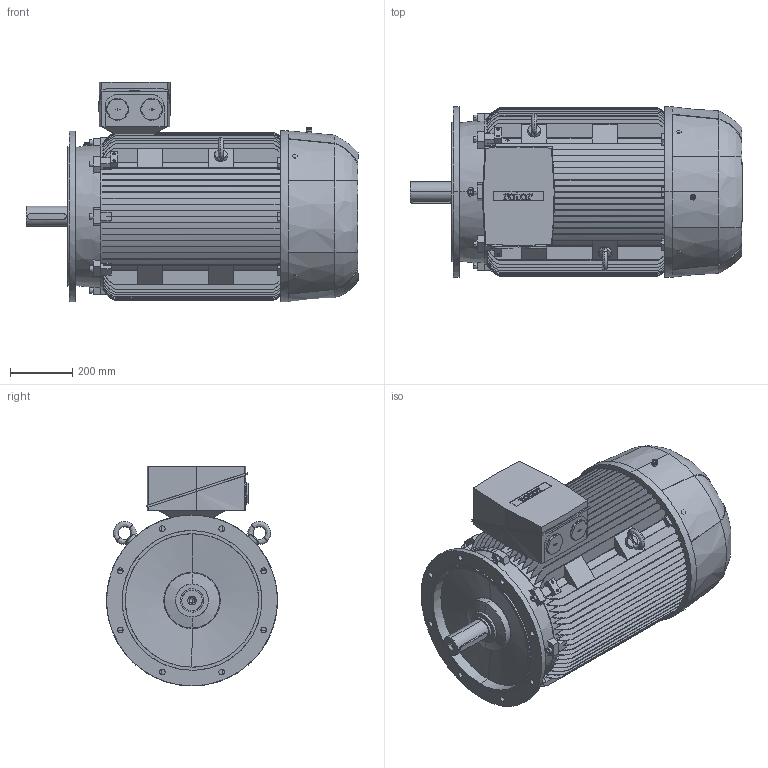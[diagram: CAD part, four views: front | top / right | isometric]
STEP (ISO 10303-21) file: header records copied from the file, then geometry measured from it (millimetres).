
FILE_DESCRIPTION (( 'STEP AP214' ), '1' );
FILE_NAME ('6RN280M02E42 IM3041.STEP', '2017-01-12T11:25:15', ( 'rbc_ict' ), ( 'Microsoft' ), 'SwSTEP 2.0', 'SolidWorks 2015', '' );
FILE_SCHEMA (( 'AUTOMOTIVE_DESIGN' ));
Length unit declared in the file: millimetre
Products named in the file (1): 6RN280M02E42 IM3041
Bounding box: 1070 x 551 x 708.5 mm (x, y, z)
Volume: 181834908.9 mm3; surface area: 5437490.7 mm2
Topology: 1 solids, 1 shells, 1137 faces, 3247 edges, 2165 vertices
Faces by surface type: plane 673, cylinder 224, bspline 217, cone 23
Entity records: 64830 total; most frequent: CARTESIAN_POINT 25845, ORIENTED_EDGE 6482, DIRECTION 4581, EDGE_CURVE 3241, VERTEX_POINT 2165, LINE 1773, VECTOR 1773, AXIS2_PLACEMENT_3D 1404
